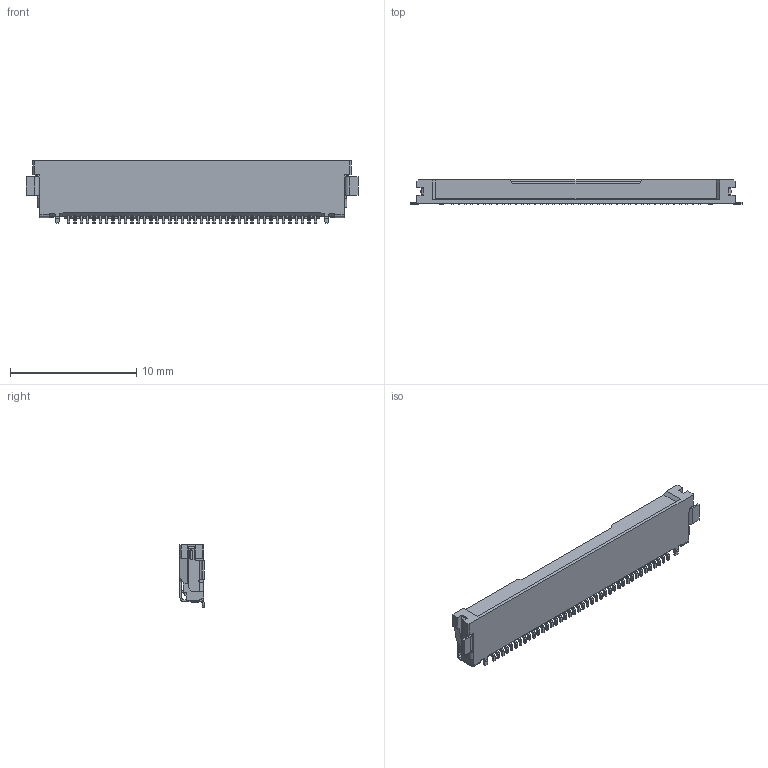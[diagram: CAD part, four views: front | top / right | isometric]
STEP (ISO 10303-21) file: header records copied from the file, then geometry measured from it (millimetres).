
FILE_DESCRIPTION (( 'STEP AP203' ), '1' );
FILE_NAME ('20893-040ExxxC EVAFLEX 5-VS TYPE R STEP R0 ALL.STEP', '2024-08-09T05:45:41', ( '' ), ( '' ), 'SwSTEP 2.0', 'SolidWorks 2023', '' );
FILE_SCHEMA (( 'CONFIG_CONTROL_DESIGN' ));
Products named in the file (1): 20893-040ExxxC EVAFLEX 5-VS TYPE R STEP R0 ALL
Bounding box: 26.25 x 1.9 x 4.95 mm (x, y, z)
Volume: 179.1 mm3; surface area: 489.7 mm2
Topology: 1 solids, 3 shells, 2025 faces, 5666 edges, 3636 vertices
Faces by surface type: plane 1508, cylinder 425, cone 92
Entity records: 64209 total; most frequent: CARTESIAN_POINT 11406, ORIENTED_EDGE 11332, DIRECTION 10640, EDGE_CURVE 5666, VECTOR 4704, LINE 4704, VERTEX_POINT 3636, AXIS2_PLACEMENT_3D 2968
